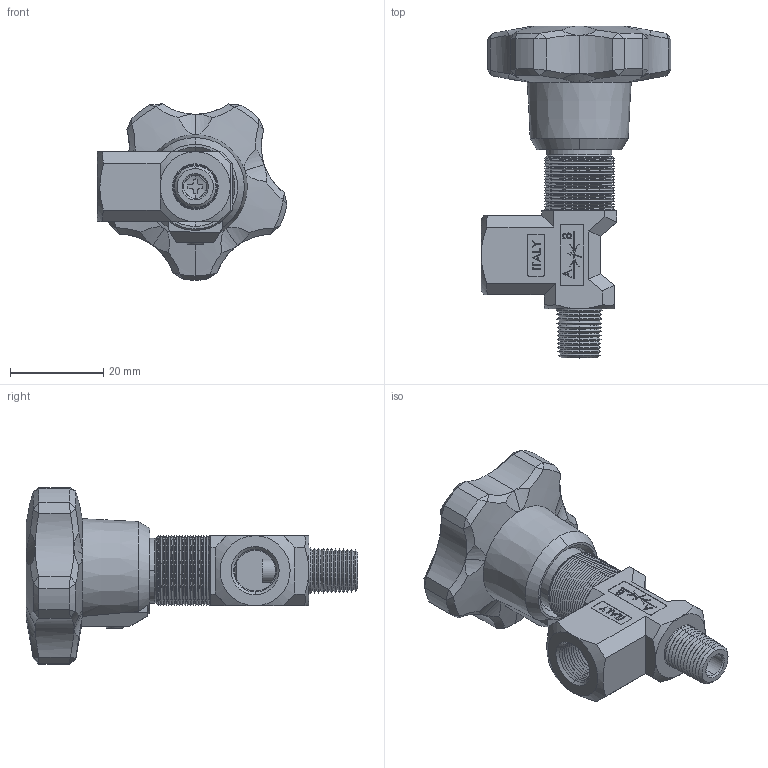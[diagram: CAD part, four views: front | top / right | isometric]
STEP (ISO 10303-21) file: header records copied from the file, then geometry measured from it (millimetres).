
FILE_DESCRIPTION (( 'STEP AP214' ), '1' );
FILE_NAME ('252-2-18 VOLANTINO ABS M-F.STEP', '2015-05-15T15:36:15', ( '' ), ( '' ), 'SwSTEP 2.0', 'SolidWorks 2014', '' );
FILE_SCHEMA (( 'AUTOMOTIVE_DESIGN' ));
Length unit declared in the file: millimetre
Products named in the file (1): 252-2-18 VOLANTINO ABS M-F
Bounding box: 40.62 x 71 x 37.74 mm (x, y, z)
Surface area: 9174.9 mm2 (no closed solid volume)
Topology: 0 solids, 15 shells, 581 faces, 1620 edges, 1020 vertices
Faces by surface type: plane 260, cone 190, cylinder 70, bspline 59, sphere 2
Entity records: 30568 total; most frequent: CARTESIAN_POINT 9951, ORIENTED_EDGE 2880, DIRECTION 2756, EDGE_CURVE 1620, VERTEX_POINT 1020, LINE 994, VECTOR 994, AXIS2_PLACEMENT_3D 881
